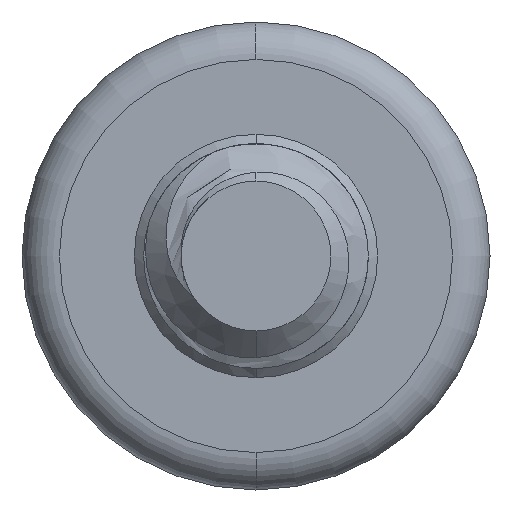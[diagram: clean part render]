
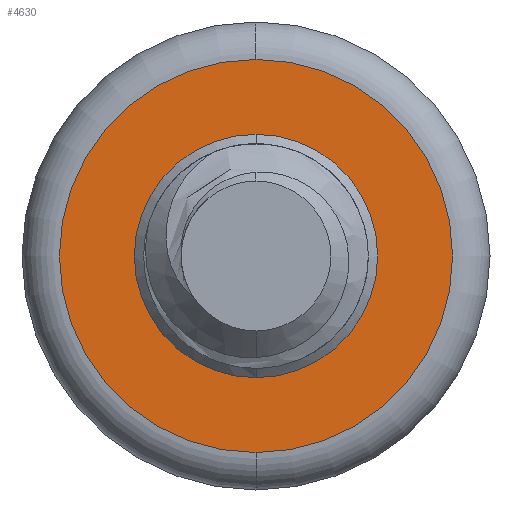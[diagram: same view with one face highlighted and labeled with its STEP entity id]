
A CAD part, left-side view. The second image highlights one B-rep face of the part: STEP entity #4630.
In plain terms, the highlighted planar face has unit normal (-1, 0, 0).
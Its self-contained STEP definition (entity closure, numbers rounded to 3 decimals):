
#186 = VERTEX_POINT ( 'NONE', #4746 ) ;
#235 = AXIS2_PLACEMENT_3D ( 'NONE', #6071, #1590, #6837 ) ;
#447 = DIRECTION ( 'NONE',  ( 0., 0., -1. ) ) ;
#458 = DIRECTION ( 'NONE',  ( -1., 0., 0. ) ) ;
#1000 = ORIENTED_EDGE ( 'NONE', *, *, #3139, .T. ) ;
#1200 = CIRCLE ( 'NONE', #8493, 0.525 ) ;
#1590 = DIRECTION ( 'NONE',  ( -1., 0., 0. ) ) ;
#1709 = AXIS2_PLACEMENT_3D ( 'NONE', #9446, #4924, #447 ) ;
#1748 = EDGE_LOOP ( 'NONE', ( #4416, #5348 ) ) ;
#1797 = VERTEX_POINT ( 'NONE', #5354 ) ;
#2117 = EDGE_LOOP ( 'NONE', ( #1000, #3847 ) ) ;
#2190 = CARTESIAN_POINT ( 'NONE',  ( 5., 0., -0.325 ) ) ;
#2244 = PLANE ( 'NONE',  #3793 ) ;
#2311 = VERTEX_POINT ( 'NONE', #5005 ) ;
#2414 = VERTEX_POINT ( 'NONE', #2190 ) ;
#3139 = EDGE_CURVE ( 'NONE', #2311, #1797, #3259, .T. ) ;
#3259 = CIRCLE ( 'NONE', #5393, 0.525 ) ;
#3641 = CARTESIAN_POINT ( 'NONE',  ( 5., 0., 0. ) ) ;
#3711 = DIRECTION ( 'NONE',  ( 0., 0., -1. ) ) ;
#3735 = CARTESIAN_POINT ( 'NONE',  ( 5., 0., 0. ) ) ;
#3793 = AXIS2_PLACEMENT_3D ( 'NONE', #3641, #8214, #3711 ) ;
#3847 = ORIENTED_EDGE ( 'NONE', *, *, #9420, .T. ) ;
#4416 = ORIENTED_EDGE ( 'NONE', *, *, #8101, .F. ) ;
#4482 = DIRECTION ( 'NONE',  ( 0., 0., -1. ) ) ;
#4630 = ADVANCED_FACE ( 'NONE', ( #8914, #8196 ), #2244, .F. ) ;
#4746 = CARTESIAN_POINT ( 'NONE',  ( 5., 0., 0.325 ) ) ;
#4924 = DIRECTION ( 'NONE',  ( -1., 0., 0. ) ) ;
#4939 = CARTESIAN_POINT ( 'NONE',  ( 5., 0., 0. ) ) ;
#5005 = CARTESIAN_POINT ( 'NONE',  ( 5., 0., -0.525 ) ) ;
#5348 = ORIENTED_EDGE ( 'NONE', *, *, #7213, .F. ) ;
#5354 = CARTESIAN_POINT ( 'NONE',  ( 5., 0., 0.525 ) ) ;
#5393 = AXIS2_PLACEMENT_3D ( 'NONE', #3735, #9010, #4482 ) ;
#5704 = DIRECTION ( 'NONE',  ( 0., 0., -1. ) ) ;
#6071 = CARTESIAN_POINT ( 'NONE',  ( 5., 0., 0. ) ) ;
#6837 = DIRECTION ( 'NONE',  ( 0., 0., -1. ) ) ;
#7213 = EDGE_CURVE ( 'NONE', #2414, #186, #9295, .T. ) ;
#8101 = EDGE_CURVE ( 'NONE', #186, #2414, #9393, .T. ) ;
#8196 = FACE_BOUND ( 'NONE', #1748, .T. ) ;
#8214 = DIRECTION ( 'NONE',  ( 1., 0., 0. ) ) ;
#8493 = AXIS2_PLACEMENT_3D ( 'NONE', #4939, #458, #5704 ) ;
#8914 = FACE_OUTER_BOUND ( 'NONE', #2117, .T. ) ;
#9010 = DIRECTION ( 'NONE',  ( -1., 0., 0. ) ) ;
#9295 = CIRCLE ( 'NONE', #235, 0.325 ) ;
#9393 = CIRCLE ( 'NONE', #1709, 0.325 ) ;
#9420 = EDGE_CURVE ( 'NONE', #1797, #2311, #1200, .T. ) ;
#9446 = CARTESIAN_POINT ( 'NONE',  ( 5., 0., 0. ) ) ;
